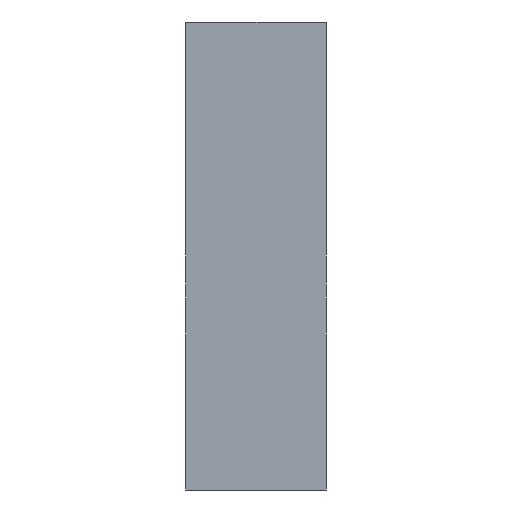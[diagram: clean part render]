
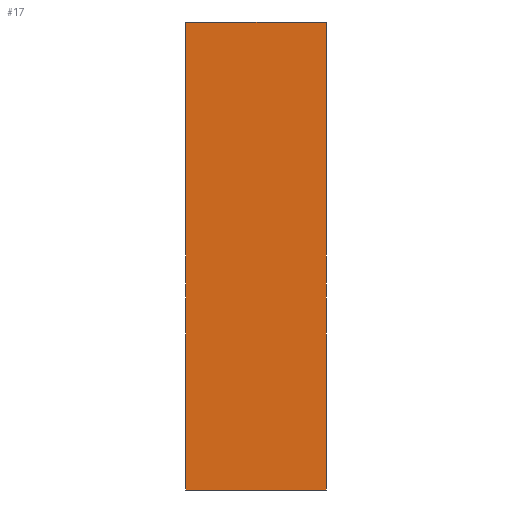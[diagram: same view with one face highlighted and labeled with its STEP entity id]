
A CAD part, left-side view. The second image highlights one B-rep face of the part: STEP entity #17.
In plain terms, the highlighted planar face has unit normal (-1, 0, 0).
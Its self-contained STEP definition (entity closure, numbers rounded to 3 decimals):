
#17 = ADVANCED_FACE('',(#18),#32,.F.);
#18 = FACE_BOUND('',#19,.F.);
#19 = EDGE_LOOP('',(#20,#55,#83,#111));
#20 = ORIENTED_EDGE('',*,*,#21,.F.);
#21 = EDGE_CURVE('',#22,#24,#26,.T.);
#22 = VERTEX_POINT('',#23);
#23 = CARTESIAN_POINT('',(-20.,0.,-5.));
#24 = VERTEX_POINT('',#25);
#25 = CARTESIAN_POINT('',(-20.,0.,5.));
#26 = SURFACE_CURVE('',#27,(#31,#43),.PCURVE_S1.);
#27 = LINE('',#28,#29);
#28 = CARTESIAN_POINT('',(-20.,0.,-5.));
#29 = VECTOR('',#30,1.);
#30 = DIRECTION('',(0.,0.,1.));
#31 = PCURVE('',#32,#37);
#32 = PLANE('',#33);
#33 = AXIS2_PLACEMENT_3D('',#34,#35,#36);
#34 = CARTESIAN_POINT('',(-20.,0.,-5.));
#35 = DIRECTION('',(1.,0.,-0.));
#36 = DIRECTION('',(0.,0.,1.));
#37 = DEFINITIONAL_REPRESENTATION('',(#38),#42);
#38 = LINE('',#39,#40);
#39 = CARTESIAN_POINT('',(0.,0.));
#40 = VECTOR('',#41,1.);
#41 = DIRECTION('',(1.,0.));
#42 = ( GEOMETRIC_REPRESENTATION_CONTEXT(2) 
PARAMETRIC_REPRESENTATION_CONTEXT() REPRESENTATION_CONTEXT('2D SPACE',''
  ) );
#43 = PCURVE('',#44,#49);
#44 = PLANE('',#45);
#45 = AXIS2_PLACEMENT_3D('',#46,#47,#48);
#46 = CARTESIAN_POINT('',(-20.,0.,-5.));
#47 = DIRECTION('',(-0.,1.,0.));
#48 = DIRECTION('',(0.,0.,1.));
#49 = DEFINITIONAL_REPRESENTATION('',(#50),#54);
#50 = LINE('',#51,#52);
#51 = CARTESIAN_POINT('',(0.,0.));
#52 = VECTOR('',#53,1.);
#53 = DIRECTION('',(1.,0.));
#54 = ( GEOMETRIC_REPRESENTATION_CONTEXT(2) 
PARAMETRIC_REPRESENTATION_CONTEXT() REPRESENTATION_CONTEXT('2D SPACE',''
  ) );
#55 = ORIENTED_EDGE('',*,*,#56,.T.);
#56 = EDGE_CURVE('',#22,#57,#59,.T.);
#57 = VERTEX_POINT('',#58);
#58 = CARTESIAN_POINT('',(-20.,3.,-5.));
#59 = SURFACE_CURVE('',#60,(#64,#71),.PCURVE_S1.);
#60 = LINE('',#61,#62);
#61 = CARTESIAN_POINT('',(-20.,0.,-5.));
#62 = VECTOR('',#63,1.);
#63 = DIRECTION('',(-0.,1.,0.));
#64 = PCURVE('',#32,#65);
#65 = DEFINITIONAL_REPRESENTATION('',(#66),#70);
#66 = LINE('',#67,#68);
#67 = CARTESIAN_POINT('',(0.,0.));
#68 = VECTOR('',#69,1.);
#69 = DIRECTION('',(0.,-1.));
#70 = ( GEOMETRIC_REPRESENTATION_CONTEXT(2) 
PARAMETRIC_REPRESENTATION_CONTEXT() REPRESENTATION_CONTEXT('2D SPACE',''
  ) );
#71 = PCURVE('',#72,#77);
#72 = PLANE('',#73);
#73 = AXIS2_PLACEMENT_3D('',#74,#75,#76);
#74 = CARTESIAN_POINT('',(-20.,0.,-5.));
#75 = DIRECTION('',(0.,0.,1.));
#76 = DIRECTION('',(1.,0.,-0.));
#77 = DEFINITIONAL_REPRESENTATION('',(#78),#82);
#78 = LINE('',#79,#80);
#79 = CARTESIAN_POINT('',(0.,0.));
#80 = VECTOR('',#81,1.);
#81 = DIRECTION('',(0.,1.));
#82 = ( GEOMETRIC_REPRESENTATION_CONTEXT(2) 
PARAMETRIC_REPRESENTATION_CONTEXT() REPRESENTATION_CONTEXT('2D SPACE',''
  ) );
#83 = ORIENTED_EDGE('',*,*,#84,.T.);
#84 = EDGE_CURVE('',#57,#85,#87,.T.);
#85 = VERTEX_POINT('',#86);
#86 = CARTESIAN_POINT('',(-20.,3.,5.));
#87 = SURFACE_CURVE('',#88,(#92,#99),.PCURVE_S1.);
#88 = LINE('',#89,#90);
#89 = CARTESIAN_POINT('',(-20.,3.,-5.));
#90 = VECTOR('',#91,1.);
#91 = DIRECTION('',(0.,0.,1.));
#92 = PCURVE('',#32,#93);
#93 = DEFINITIONAL_REPRESENTATION('',(#94),#98);
#94 = LINE('',#95,#96);
#95 = CARTESIAN_POINT('',(0.,-3.));
#96 = VECTOR('',#97,1.);
#97 = DIRECTION('',(1.,0.));
#98 = ( GEOMETRIC_REPRESENTATION_CONTEXT(2) 
PARAMETRIC_REPRESENTATION_CONTEXT() REPRESENTATION_CONTEXT('2D SPACE',''
  ) );
#99 = PCURVE('',#100,#105);
#100 = PLANE('',#101);
#101 = AXIS2_PLACEMENT_3D('',#102,#103,#104);
#102 = CARTESIAN_POINT('',(-20.,3.,-5.));
#103 = DIRECTION('',(-0.,1.,0.));
#104 = DIRECTION('',(0.,0.,1.));
#105 = DEFINITIONAL_REPRESENTATION('',(#106),#110);
#106 = LINE('',#107,#108);
#107 = CARTESIAN_POINT('',(0.,0.));
#108 = VECTOR('',#109,1.);
#109 = DIRECTION('',(1.,0.));
#110 = ( GEOMETRIC_REPRESENTATION_CONTEXT(2) 
PARAMETRIC_REPRESENTATION_CONTEXT() REPRESENTATION_CONTEXT('2D SPACE',''
  ) );
#111 = ORIENTED_EDGE('',*,*,#112,.F.);
#112 = EDGE_CURVE('',#24,#85,#113,.T.);
#113 = SURFACE_CURVE('',#114,(#118,#125),.PCURVE_S1.);
#114 = LINE('',#115,#116);
#115 = CARTESIAN_POINT('',(-20.,0.,5.));
#116 = VECTOR('',#117,1.);
#117 = DIRECTION('',(-0.,1.,0.));
#118 = PCURVE('',#32,#119);
#119 = DEFINITIONAL_REPRESENTATION('',(#120),#124);
#120 = LINE('',#121,#122);
#121 = CARTESIAN_POINT('',(10.,0.));
#122 = VECTOR('',#123,1.);
#123 = DIRECTION('',(0.,-1.));
#124 = ( GEOMETRIC_REPRESENTATION_CONTEXT(2) 
PARAMETRIC_REPRESENTATION_CONTEXT() REPRESENTATION_CONTEXT('2D SPACE',''
  ) );
#125 = PCURVE('',#126,#131);
#126 = PLANE('',#127);
#127 = AXIS2_PLACEMENT_3D('',#128,#129,#130);
#128 = CARTESIAN_POINT('',(-20.,0.,5.));
#129 = DIRECTION('',(0.,0.,1.));
#130 = DIRECTION('',(1.,0.,-0.));
#131 = DEFINITIONAL_REPRESENTATION('',(#132),#136);
#132 = LINE('',#133,#134);
#133 = CARTESIAN_POINT('',(0.,0.));
#134 = VECTOR('',#135,1.);
#135 = DIRECTION('',(0.,1.));
#136 = ( GEOMETRIC_REPRESENTATION_CONTEXT(2) 
PARAMETRIC_REPRESENTATION_CONTEXT() REPRESENTATION_CONTEXT('2D SPACE',''
  ) );
